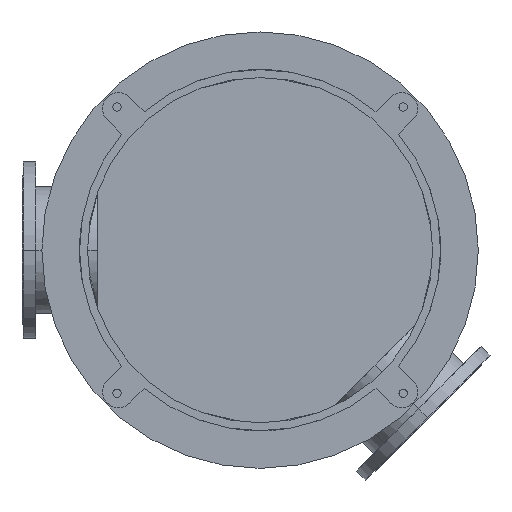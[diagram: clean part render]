
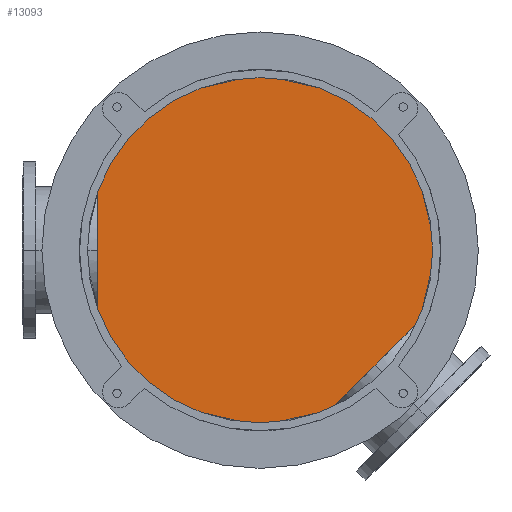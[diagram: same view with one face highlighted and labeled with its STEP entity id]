
A CAD part, front view. The second image highlights one B-rep face of the part: STEP entity #13093.
In plain terms, the highlighted planar face has unit normal (0, -1, 0).
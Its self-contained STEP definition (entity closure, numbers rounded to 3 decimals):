
#3571=CARTESIAN_POINT('',(0.,1000.,0.));
#3572=DIRECTION('',(0.,-1.,0.));
#3573=DIRECTION('',(0.,0.,-1.));
#3574=AXIS2_PLACEMENT_3D('',#3571,#3572,#3573);
#3700=CARTESIAN_POINT('',(0.,1000.,0.));
#3701=DIRECTION('',(0.,-1.,0.));
#3702=DIRECTION('',(0.,0.,1.));
#3703=AXIS2_PLACEMENT_3D('',#3700,#3701,#3702);
#7250=CARTESIAN_POINT('',(0.,1000.,450.));
#7251=CARTESIAN_POINT('',(0.,1000.,-450.));
#7252=VERTEX_POINT('',#7250);
#7253=VERTEX_POINT('',#7251);
#13084=CARTESIAN_POINT('',(0.,1000.,0.));
#13085=DIRECTION('',(0.,1.,0.));
#13086=DIRECTION('',(0.,0.,-1.));
#13087=AXIS2_PLACEMENT_3D('',#13084,#13085,#13086);
#13088=PLANE('',#13087);
#13089=ORIENTED_EDGE('',*,*,#13070,.F.);
#13090=ORIENTED_EDGE('',*,*,#12971,.F.);
#13091=EDGE_LOOP('',(#13089,#13090));
#13092=FACE_OUTER_BOUND('',#13091,.F.);
#13093=ADVANCED_FACE('',(#13092),#13088,.F.);
#3575=CIRCLE('',#3574,450.);
#3704=CIRCLE('',#3703,450.);
#12971=EDGE_CURVE('',#7253,#7252,#3575,.T.);
#13070=EDGE_CURVE('',#7252,#7253,#3704,.T.);
